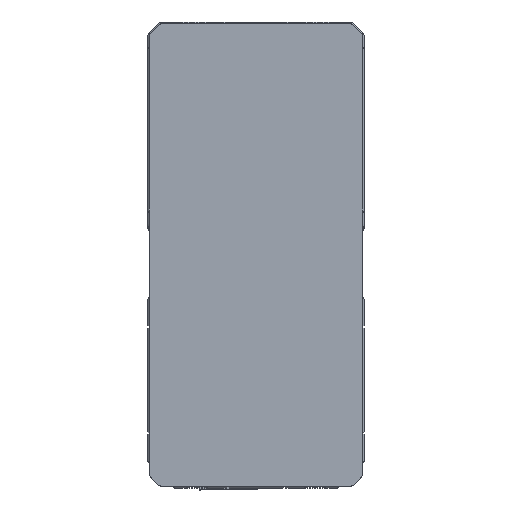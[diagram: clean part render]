
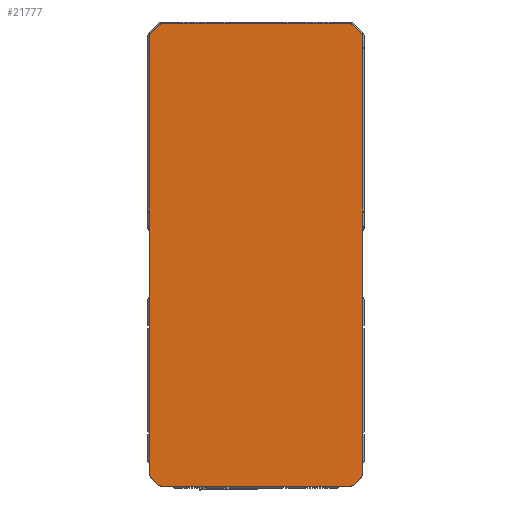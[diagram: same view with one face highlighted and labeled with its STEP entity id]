
A CAD part, top view. The second image highlights one B-rep face of the part: STEP entity #21777.
In plain terms, the highlighted planar face has unit normal (0, 0, 1).
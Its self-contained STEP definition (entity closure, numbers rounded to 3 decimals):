
#411 = DIRECTION ( 'NONE',  ( 0., 0., 1. ) ) ;
#943 = DIRECTION ( 'NONE',  ( 0.707, -0.707, 0. ) ) ;
#1250 = LINE ( 'NONE', #29178, #24153 ) ;
#1585 = AXIS2_PLACEMENT_3D ( 'NONE', #31381, #12730, #34481 ) ;
#1755 = DIRECTION ( 'NONE',  ( 0., 0., 1. ) ) ;
#1883 = EDGE_CURVE ( 'NONE', #27306, #30534, #33713, .T. ) ;
#1950 = VECTOR ( 'NONE', #11990, 1000. ) ;
#2220 = LINE ( 'NONE', #30518, #33406 ) ;
#2604 = DIRECTION ( 'NONE',  ( 0., 0., -1. ) ) ;
#2695 = ORIENTED_EDGE ( 'NONE', *, *, #39767, .T. ) ;
#3083 = ORIENTED_EDGE ( 'NONE', *, *, #35074, .T. ) ;
#3762 = DIRECTION ( 'NONE',  ( 0., 0., 1. ) ) ;
#4217 = ORIENTED_EDGE ( 'NONE', *, *, #15021, .T. ) ;
#4375 = EDGE_CURVE ( 'NONE', #9530, #7670, #12156, .T. ) ;
#4564 = CIRCLE ( 'NONE', #38989, 1.5 ) ;
#5722 = CARTESIAN_POINT ( 'NONE',  ( -28.079, -107., 544. ) ) ;
#5730 = AXIS2_PLACEMENT_3D ( 'NONE', #18672, #40446, #21829 ) ;
#5794 = CARTESIAN_POINT ( 'NONE',  ( 29.139, -106.561, 544. ) ) ;
#6058 = CARTESIAN_POINT ( 'NONE',  ( -32., 28.079, 544. ) ) ;
#6059 = AXIS2_PLACEMENT_3D ( 'NONE', #20438, #1755, #23547 ) ;
#6766 = EDGE_CURVE ( 'NONE', #30534, #9498, #36268, .T. ) ;
#6929 = VERTEX_POINT ( 'NONE', #38461 ) ;
#7176 = CARTESIAN_POINT ( 'NONE',  ( -31.561, -104.139, 544. ) ) ;
#7388 = EDGE_CURVE ( 'NONE', #27629, #38961, #4564, .T. ) ;
#7411 = CIRCLE ( 'NONE', #6059, 1.5 ) ;
#7670 = VERTEX_POINT ( 'NONE', #7176 ) ;
#7718 = CARTESIAN_POINT ( 'NONE',  ( 29.139, 31.561, 544. ) ) ;
#8549 = ORIENTED_EDGE ( 'NONE', *, *, #28187, .T. ) ;
#8929 = CIRCLE ( 'NONE', #40233, 1.5 ) ;
#9084 = VERTEX_POINT ( 'NONE', #30052 ) ;
#9281 = ORIENTED_EDGE ( 'NONE', *, *, #10821, .T. ) ;
#9498 = VERTEX_POINT ( 'NONE', #23035 ) ;
#9530 = VERTEX_POINT ( 'NONE', #20051 ) ;
#9537 = ORIENTED_EDGE ( 'NONE', *, *, #12013, .T. ) ;
#9638 = CARTESIAN_POINT ( 'NONE',  ( -32., 28.079, 544. ) ) ;
#10057 = CARTESIAN_POINT ( 'NONE',  ( 32., 28.079, 544. ) ) ;
#10821 = EDGE_CURVE ( 'NONE', #9498, #20969, #16708, .T. ) ;
#11990 = DIRECTION ( 'NONE',  ( 1., 0., 0. ) ) ;
#12013 = EDGE_CURVE ( 'NONE', #7670, #9084, #33134, .T. ) ;
#12156 = CIRCLE ( 'NONE', #1585, 1.5 ) ;
#12730 = DIRECTION ( 'NONE',  ( 0., 0., 1. ) ) ;
#12852 = DIRECTION ( 'NONE',  ( 0., 0., 1. ) ) ;
#13112 = ORIENTED_EDGE ( 'NONE', *, *, #7388, .T. ) ;
#14058 = VERTEX_POINT ( 'NONE', #24729 ) ;
#14603 = DIRECTION ( 'NONE',  ( -1., 0., 0. ) ) ;
#14743 = VECTOR ( 'NONE', #14603, 1000. ) ;
#14761 = CIRCLE ( 'NONE', #5730, 1.5 ) ;
#15021 = EDGE_CURVE ( 'NONE', #38961, #39250, #2220, .T. ) ;
#15487 = DIRECTION ( 'NONE',  ( 0., 0., 1. ) ) ;
#15700 = AXIS2_PLACEMENT_3D ( 'NONE', #35334, #16723, #38465 ) ;
#16587 = LINE ( 'NONE', #9638, #40401 ) ;
#16708 = LINE ( 'NONE', #36353, #14743 ) ;
#16723 = DIRECTION ( 'NONE',  ( 0., 0., 1. ) ) ;
#16762 = DIRECTION ( 'NONE',  ( -0.707, -0.707, 0. ) ) ;
#18122 = DIRECTION ( 'NONE',  ( 0.707, 0.707, 0. ) ) ;
#18166 = EDGE_CURVE ( 'NONE', #18753, #28624, #19997, .T. ) ;
#18476 = ORIENTED_EDGE ( 'NONE', *, *, #31640, .T. ) ;
#18672 = CARTESIAN_POINT ( 'NONE',  ( 30.5, 28.079, 544. ) ) ;
#18753 = VERTEX_POINT ( 'NONE', #32524 ) ;
#19082 = CARTESIAN_POINT ( 'NONE',  ( -28.079, -105.5, 544. ) ) ;
#19244 = ORIENTED_EDGE ( 'NONE', *, *, #30007, .T. ) ;
#19997 = LINE ( 'NONE', #32424, #20957 ) ;
#20051 = CARTESIAN_POINT ( 'NONE',  ( -32., -103.079, 544. ) ) ;
#20438 = CARTESIAN_POINT ( 'NONE',  ( 30.5, -103.079, 544. ) ) ;
#20529 = ORIENTED_EDGE ( 'NONE', *, *, #33165, .T. ) ;
#20957 = VECTOR ( 'NONE', #35537, 1000. ) ;
#20969 = VERTEX_POINT ( 'NONE', #29576 ) ;
#21300 = PLANE ( 'NONE',  #24959 ) ;
#21365 = CARTESIAN_POINT ( 'NONE',  ( 29.139, 31.561, 544. ) ) ;
#21657 = ORIENTED_EDGE ( 'NONE', *, *, #6766, .T. ) ;
#21777 = ADVANCED_FACE ( 'NONE', ( #27095 ), #21300, .F. ) ;
#21829 = DIRECTION ( 'NONE',  ( -1., 0., 0. ) ) ;
#22219 = DIRECTION ( 'NONE',  ( 1., 0., 0. ) ) ;
#22281 = EDGE_LOOP ( 'NONE', ( #20529, #8549, #18476, #3083, #32320, #9537, #35427, #2695, #13112, #4217, #23330, #23128, #19244, #33617, #21657, #9281 ) ) ;
#22425 = CARTESIAN_POINT ( 'NONE',  ( -28.079, 30.5, 544. ) ) ;
#22753 = CARTESIAN_POINT ( 'NONE',  ( -31.561, -104.139, 544. ) ) ;
#22787 = CARTESIAN_POINT ( 'NONE',  ( 28.079, -107., 544. ) ) ;
#23035 = CARTESIAN_POINT ( 'NONE',  ( 28.079, 32., 544. ) ) ;
#23128 = ORIENTED_EDGE ( 'NONE', *, *, #18166, .T. ) ;
#23330 = ORIENTED_EDGE ( 'NONE', *, *, #24726, .T. ) ;
#23485 = DIRECTION ( 'NONE',  ( -0.707, 0.707, 0. ) ) ;
#23547 = DIRECTION ( 'NONE',  ( 1., 0., 0. ) ) ;
#24153 = VECTOR ( 'NONE', #16762, 1000. ) ;
#24430 = DIRECTION ( 'NONE',  ( -1., 0., 0. ) ) ;
#24726 = EDGE_CURVE ( 'NONE', #39250, #18753, #7411, .T. ) ;
#24729 = CARTESIAN_POINT ( 'NONE',  ( -31.561, 29.139, 544. ) ) ;
#24959 = AXIS2_PLACEMENT_3D ( 'NONE', #39927, #2604, #24430 ) ;
#25567 = DIRECTION ( 'NONE',  ( -1., 0., 0. ) ) ;
#25839 = VECTOR ( 'NONE', #943, 1000. ) ;
#26220 = CARTESIAN_POINT ( 'NONE',  ( 31.561, -104.139, 544. ) ) ;
#26499 = CARTESIAN_POINT ( 'NONE',  ( -28.079, -107., 544. ) ) ;
#26626 = AXIS2_PLACEMENT_3D ( 'NONE', #19082, #411, #22219 ) ;
#26836 = LINE ( 'NONE', #5722, #1950 ) ;
#27095 = FACE_OUTER_BOUND ( 'NONE', #22281, .T. ) ;
#27306 = VERTEX_POINT ( 'NONE', #39935 ) ;
#27629 = VERTEX_POINT ( 'NONE', #22787 ) ;
#28187 = EDGE_CURVE ( 'NONE', #6929, #14058, #1250, .T. ) ;
#28415 = DIRECTION ( 'NONE',  ( 0., -1., 0. ) ) ;
#28624 = VERTEX_POINT ( 'NONE', #10057 ) ;
#29178 = CARTESIAN_POINT ( 'NONE',  ( -31.561, 29.139, 544. ) ) ;
#29576 = CARTESIAN_POINT ( 'NONE',  ( -28.079, 32., 544. ) ) ;
#30007 = EDGE_CURVE ( 'NONE', #28624, #27306, #14761, .T. ) ;
#30052 = CARTESIAN_POINT ( 'NONE',  ( -29.139, -106.561, 544. ) ) ;
#30098 = EDGE_CURVE ( 'NONE', #9084, #35297, #33708, .T. ) ;
#30518 = CARTESIAN_POINT ( 'NONE',  ( 29.139, -106.561, 544. ) ) ;
#30534 = VERTEX_POINT ( 'NONE', #21365 ) ;
#31381 = CARTESIAN_POINT ( 'NONE',  ( -30.5, -103.079, 544. ) ) ;
#31521 = CARTESIAN_POINT ( 'NONE',  ( 28.079, -105.5, 544. ) ) ;
#31640 = EDGE_CURVE ( 'NONE', #14058, #37141, #39972, .T. ) ;
#32320 = ORIENTED_EDGE ( 'NONE', *, *, #4375, .T. ) ;
#32424 = CARTESIAN_POINT ( 'NONE',  ( 32., 28.079, 544. ) ) ;
#32524 = CARTESIAN_POINT ( 'NONE',  ( 32., -103.079, 544. ) ) ;
#32776 = VECTOR ( 'NONE', #23485, 1000. ) ;
#33134 = LINE ( 'NONE', #22753, #25839 ) ;
#33165 = EDGE_CURVE ( 'NONE', #20969, #6929, #8929, .T. ) ;
#33406 = VECTOR ( 'NONE', #18122, 1000. ) ;
#33617 = ORIENTED_EDGE ( 'NONE', *, *, #1883, .T. ) ;
#33708 = CIRCLE ( 'NONE', #26626, 1.5 ) ;
#33713 = LINE ( 'NONE', #7718, #32776 ) ;
#34101 = CARTESIAN_POINT ( 'NONE',  ( 28.079, 30.5, 544. ) ) ;
#34481 = DIRECTION ( 'NONE',  ( -1., 0., 0. ) ) ;
#34617 = DIRECTION ( 'NONE',  ( -1., 0., 0. ) ) ;
#35074 = EDGE_CURVE ( 'NONE', #37141, #9530, #16587, .T. ) ;
#35297 = VERTEX_POINT ( 'NONE', #26499 ) ;
#35334 = CARTESIAN_POINT ( 'NONE',  ( -30.5, 28.079, 544. ) ) ;
#35427 = ORIENTED_EDGE ( 'NONE', *, *, #30098, .T. ) ;
#35537 = DIRECTION ( 'NONE',  ( 0., 1., 0. ) ) ;
#36268 = CIRCLE ( 'NONE', #38431, 1.5 ) ;
#36353 = CARTESIAN_POINT ( 'NONE',  ( -28.079, 32., 544. ) ) ;
#37141 = VERTEX_POINT ( 'NONE', #6058 ) ;
#37210 = DIRECTION ( 'NONE',  ( 1., 0., 0. ) ) ;
#38431 = AXIS2_PLACEMENT_3D ( 'NONE', #34101, #15487, #37210 ) ;
#38461 = CARTESIAN_POINT ( 'NONE',  ( -29.139, 31.561, 544. ) ) ;
#38465 = DIRECTION ( 'NONE',  ( 1., 0., 0. ) ) ;
#38961 = VERTEX_POINT ( 'NONE', #5794 ) ;
#38989 = AXIS2_PLACEMENT_3D ( 'NONE', #31521, #12852, #34617 ) ;
#39250 = VERTEX_POINT ( 'NONE', #26220 ) ;
#39767 = EDGE_CURVE ( 'NONE', #35297, #27629, #26836, .T. ) ;
#39927 = CARTESIAN_POINT ( 'NONE',  ( -28.079, 30.5, 544. ) ) ;
#39935 = CARTESIAN_POINT ( 'NONE',  ( 31.561, 29.139, 544. ) ) ;
#39972 = CIRCLE ( 'NONE', #15700, 1.5 ) ;
#40233 = AXIS2_PLACEMENT_3D ( 'NONE', #22425, #3762, #25567 ) ;
#40401 = VECTOR ( 'NONE', #28415, 1000. ) ;
#40446 = DIRECTION ( 'NONE',  ( 0., 0., 1. ) ) ;
